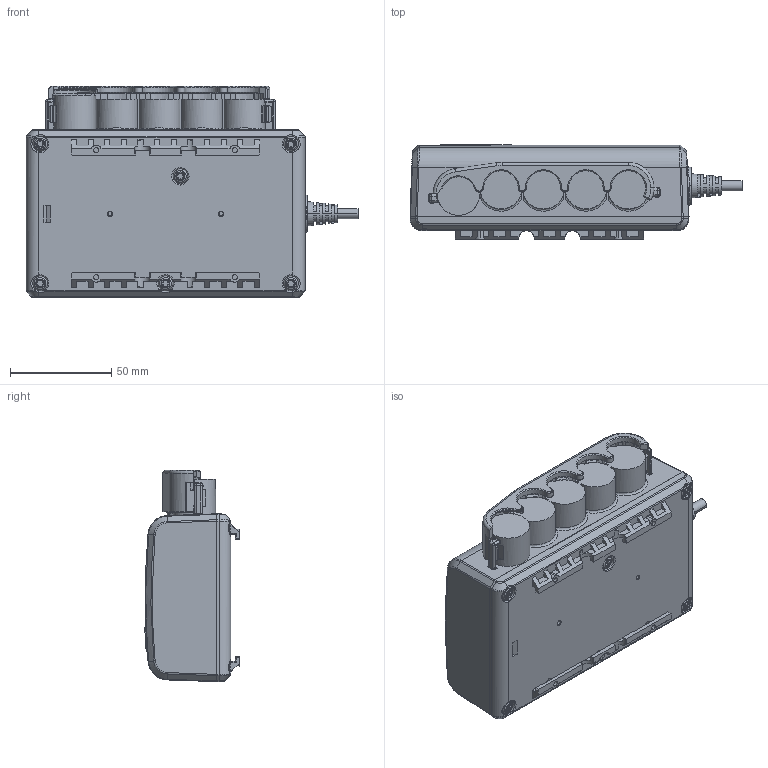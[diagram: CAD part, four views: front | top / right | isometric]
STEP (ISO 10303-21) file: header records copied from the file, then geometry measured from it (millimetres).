
FILE_DESCRIPTION (( 'STEP AP203' ), '1' );
FILE_NAME ('3D_TC14.STEP', '2022-07-19T07:30:07', ( '' ), ( '' ), 'SwSTEP 2.0', 'SolidWorks 2015', '' );
FILE_SCHEMA (( 'CONFIG_CONTROL_DESIGN' ));
Products named in the file (1): 3D_TC14
Bounding box: 164.2 x 46.73 x 104.5 mm (x, y, z)
Volume: 496979 mm3; surface area: 79897.7 mm2
Topology: 10 solids, 10 shells, 1854 faces, 5240 edges, 3407 vertices
Faces by surface type: plane 1119, cylinder 424, bspline 142, cone 74, torus 65, sphere 30
Entity records: 67570 total; most frequent: CARTESIAN_POINT 24622, ORIENTED_EDGE 10464, DIRECTION 7449, EDGE_CURVE 5232, VERTEX_POINT 3407, AXIS2_PLACEMENT_3D 2603, VECTOR 2243, LINE 2243
